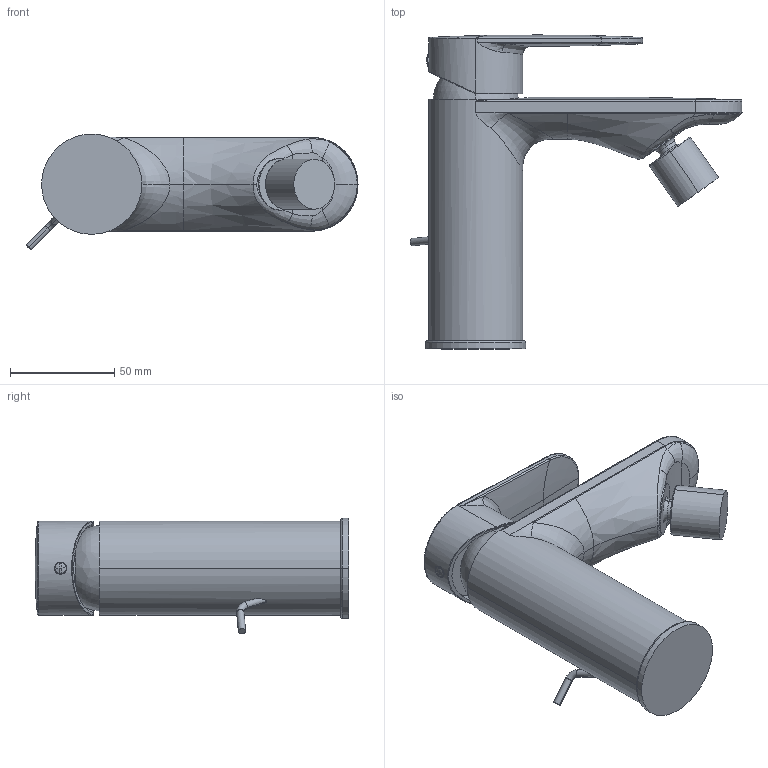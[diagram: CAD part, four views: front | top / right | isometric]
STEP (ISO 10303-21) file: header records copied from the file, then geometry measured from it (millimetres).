
FILE_DESCRIPTION((''),'2;1');
FILE_NAME('13_381_041_XXX','2018-02-22T',('ES997'),(''),'CREO PARAMETRIC BY PTC INC, 2016260','CREO PARAMETRIC BY PTC INC, 2016260','');
FILE_SCHEMA(('CONFIG_CONTROL_DESIGN'));
Length unit declared in the file: millimetre
Products named in the file (1): 13_381_041_XXX
Bounding box: 158.94 x 150.29 x 55.44 mm (x, y, z)
Volume: 331250.4 mm3; surface area: 48087.5 mm2
Topology: 1 solids, 1 shells, 155 faces, 394 edges, 246 vertices
Faces by surface type: bspline 68, cylinder 40, plane 25, torus 13, cone 4, sphere 3, extrusion 2
Entity records: 14469 total; most frequent: CARTESIAN_POINT 11341, ORIENTED_EDGE 780, DIRECTION 412, EDGE_CURVE 390, VERTEX_POINT 246, B_SPLINE_CURVE_WITH_KNOTS 234, AXIS2_PLACEMENT_3D 167, EDGE_LOOP 164
